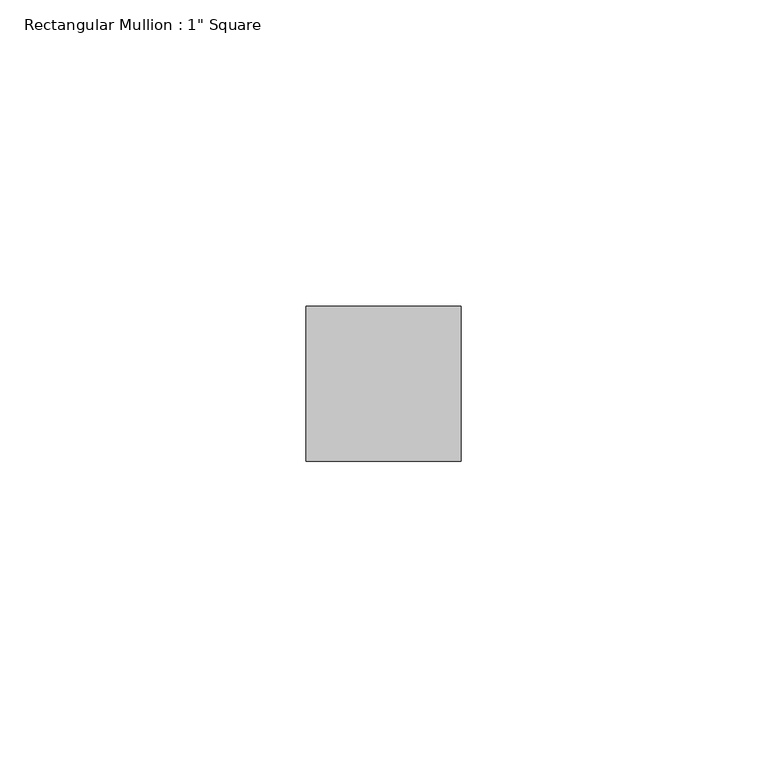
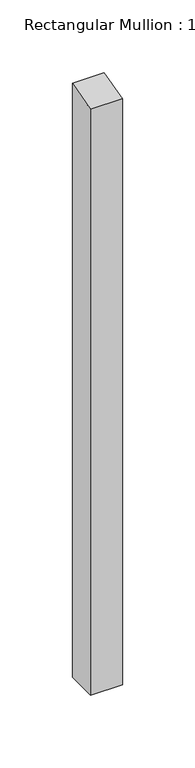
"""IFC4 building model written with IfcOpenShell, lengths in millimetres: member geometry."""

from ifc_helpers import new_model, si_unit, origin, place, context, project, spatial, faceted_brep, source, transform, mapped, element, save


def member_13f17b54(model_context):
    return source(origin(), model_context, "Body", "Brep", [
        faceted_brep([(0.0, 12.7, -496.7079644), (0.0, -12.7, -496.7079644), (-25.4, -12.7, -496.7079644), (-25.4, 12.7, -496.7079644), (-25.4, 12.7, 3.3358962), (0.0, 12.7, 3.3412871), (-25.4, -12.7, -3.346678), (0.0, -12.7, -3.3412871)], [[[0, 1, 2, 3]], [[4, 5, 0, 3]], [[6, 4, 3, 2]], [[7, 6, 2, 1]], [[5, 7, 1, 0]], [[5, 4, 6, 7]]]),
    ])


if __name__ == "__main__":
    model = new_model("IFC4")
    model_context = context("Model", 3, world=origin())
    ifc_project = project(units=[si_unit("LENGTHUNIT", "METRE", prefix="MILLI")], contexts=[model_context])
    site = spatial("IfcSite", under=ifc_project)
    building = spatial("IfcBuilding", under=site)
    placement = place(None, origin())
    member_shape = member_13f17b54(model_context)
    element("IfcMember", 1, ObjectType="Rectangular Mullion : 1\" Square", at=placement, inside=building, context=model_context, shape_type="MappedRepresentation", body=[
        mapped(member_shape, transform((0.0, 0.0, 0.0), x_axis=(1.0, 0.0, 0.0), y_axis=(0.0, 1.0, 0.0), z_axis=(0.0, 0.0, 1.0))),
    ])
    save(model, "model.ifc")
